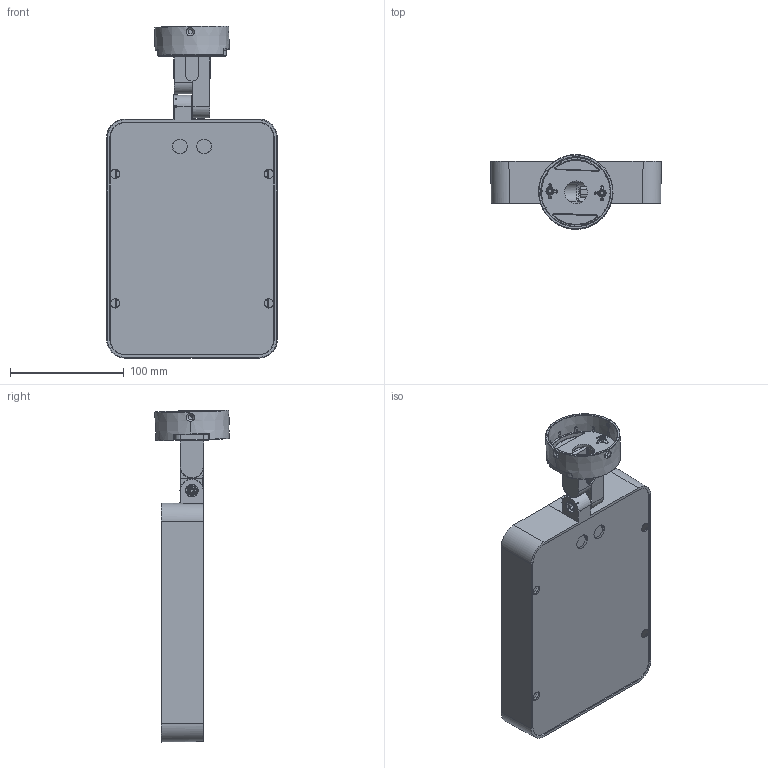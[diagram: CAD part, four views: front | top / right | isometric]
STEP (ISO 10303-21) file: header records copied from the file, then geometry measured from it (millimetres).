
FILE_DESCRIPTION((''),'2;1');
FILE_NAME('TAG210-COB-ASIMM-CITI_SW0004','2025-07-29T09:40:43',('Piccioli'),(''),'CREO PARAMETRIC BY PTC INC, 2025010','CREO PARAMETRIC BY PTC INC, 2025010','');
FILE_SCHEMA(('CONFIG_CONTROL_DESIGN'));
Products named in the file (1): TAG210-COB-ASIMM-CITI_SW0004
Bounding box: 150 x 65.78 x 291.92 mm (x, y, z)
Surface area: 233188.4 mm2 (no closed solid volume)
Topology: 0 solids, 85 shells, 666 faces, 3102 edges, 2466 vertices
Faces by surface type: plane 205, cylinder 150, cone 131, torus 100, bspline 79, sphere 1
Entity records: 48582 total; most frequent: CARTESIAN_POINT 25852, DIRECTION 4386, ORIENTED_EDGE 4064, EDGE_CURVE 3102, VERTEX_POINT 2466, AXIS2_PLACEMENT_3D 1574, VECTOR 1238, LINE 1238
